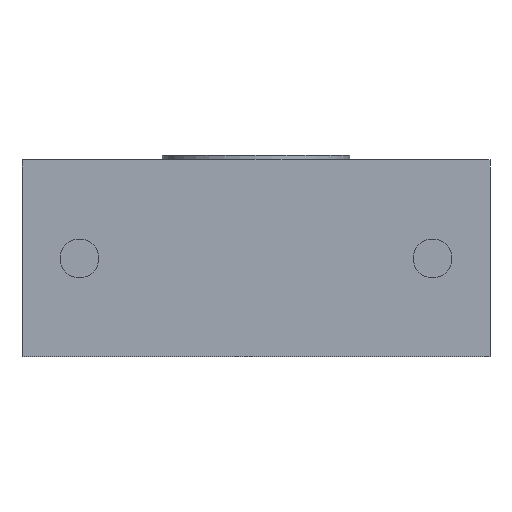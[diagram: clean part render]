
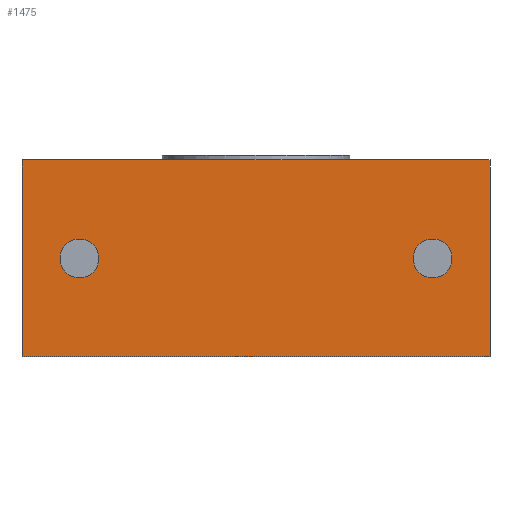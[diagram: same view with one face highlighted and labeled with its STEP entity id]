
A CAD part, front view. The second image highlights one B-rep face of the part: STEP entity #1475.
In plain terms, the highlighted planar face has unit normal (0, -1, 0).
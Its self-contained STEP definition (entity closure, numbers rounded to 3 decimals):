
#92=FACE_BOUND('',#265,.T.);
#93=FACE_BOUND('',#266,.T.);
#121=PLANE('',#1688);
#175=FACE_OUTER_BOUND('',#264,.T.);
#264=EDGE_LOOP('',(#1082,#1083,#1084,#1085));
#265=EDGE_LOOP('',(#1086,#1087));
#266=EDGE_LOOP('',(#1088,#1089));
#366=LINE('',#2426,#446);
#373=LINE('',#2442,#453);
#382=LINE('',#2477,#462);
#383=LINE('',#2479,#463);
#446=VECTOR('',#1907,10.);
#453=VECTOR('',#1920,10.);
#462=VECTOR('',#1963,10.);
#463=VECTOR('',#1966,10.);
#518=CIRCLE('',#1635,4.188);
#519=CIRCLE('',#1636,4.188);
#522=CIRCLE('',#1641,4.188);
#523=CIRCLE('',#1642,4.188);
#606=VERTEX_POINT('',#2355);
#607=VERTEX_POINT('',#2356);
#610=VERTEX_POINT('',#2366);
#611=VERTEX_POINT('',#2367);
#633=VERTEX_POINT('',#2423);
#634=VERTEX_POINT('',#2425);
#639=VERTEX_POINT('',#2439);
#640=VERTEX_POINT('',#2441);
#753=EDGE_CURVE('',#606,#607,#518,.T.);
#754=EDGE_CURVE('',#607,#606,#519,.T.);
#758=EDGE_CURVE('',#610,#611,#522,.T.);
#759=EDGE_CURVE('',#611,#610,#523,.T.);
#786=EDGE_CURVE('',#634,#633,#366,.T.);
#794=EDGE_CURVE('',#640,#639,#373,.T.);
#813=EDGE_CURVE('',#633,#640,#382,.T.);
#814=EDGE_CURVE('',#639,#634,#383,.T.);
#1082=ORIENTED_EDGE('',*,*,#813,.T.);
#1083=ORIENTED_EDGE('',*,*,#794,.T.);
#1084=ORIENTED_EDGE('',*,*,#814,.T.);
#1085=ORIENTED_EDGE('',*,*,#786,.T.);
#1086=ORIENTED_EDGE('',*,*,#753,.T.);
#1087=ORIENTED_EDGE('',*,*,#754,.T.);
#1088=ORIENTED_EDGE('',*,*,#758,.T.);
#1089=ORIENTED_EDGE('',*,*,#759,.T.);
#1475=ADVANCED_FACE('',(#175,#92,#93),#121,.F.);
#1635=AXIS2_PLACEMENT_3D('',#2357,#1833,#1834);
#1636=AXIS2_PLACEMENT_3D('',#2358,#1835,#1836);
#1641=AXIS2_PLACEMENT_3D('',#2368,#1846,#1847);
#1642=AXIS2_PLACEMENT_3D('',#2369,#1848,#1849);
#1688=AXIS2_PLACEMENT_3D('',#2480,#1967,#1968);
#1833=DIRECTION('center_axis',(0.,1.,0.));
#1834=DIRECTION('ref_axis',(-1.,0.,0.));
#1835=DIRECTION('center_axis',(0.,1.,0.));
#1836=DIRECTION('ref_axis',(-1.,0.,0.));
#1846=DIRECTION('center_axis',(0.,1.,0.));
#1847=DIRECTION('ref_axis',(-1.,0.,0.));
#1848=DIRECTION('center_axis',(0.,1.,0.));
#1849=DIRECTION('ref_axis',(-1.,0.,0.));
#1907=DIRECTION('',(1.,0.,0.));
#1920=DIRECTION('',(-1.,0.,0.));
#1963=DIRECTION('',(0.,0.,1.));
#1966=DIRECTION('',(0.,0.,-1.));
#1967=DIRECTION('center_axis',(0.,1.,0.));
#1968=DIRECTION('ref_axis',(0.,0.,1.));
#2355=CARTESIAN_POINT('',(-42.288,-42.9,0.));
#2356=CARTESIAN_POINT('',(-33.912,-42.9,0.));
#2357=CARTESIAN_POINT('Origin',(-38.1,-42.9,0.));
#2358=CARTESIAN_POINT('Origin',(-38.1,-42.9,0.));
#2366=CARTESIAN_POINT('',(33.912,-42.9,0.));
#2367=CARTESIAN_POINT('',(42.288,-42.9,0.));
#2368=CARTESIAN_POINT('Origin',(38.1,-42.9,0.));
#2369=CARTESIAN_POINT('Origin',(38.1,-42.9,0.));
#2423=CARTESIAN_POINT('',(50.5,-42.9,-21.25));
#2425=CARTESIAN_POINT('',(-50.5,-42.9,-21.25));
#2426=CARTESIAN_POINT('',(25.25,-42.9,-21.25));
#2439=CARTESIAN_POINT('',(-50.5,-42.9,21.25));
#2441=CARTESIAN_POINT('',(50.5,-42.9,21.25));
#2442=CARTESIAN_POINT('',(-25.25,-42.9,21.25));
#2477=CARTESIAN_POINT('',(50.5,-42.9,10.625));
#2479=CARTESIAN_POINT('',(-50.5,-42.9,-10.625));
#2480=CARTESIAN_POINT('Origin',(0.,-42.9,0.));
